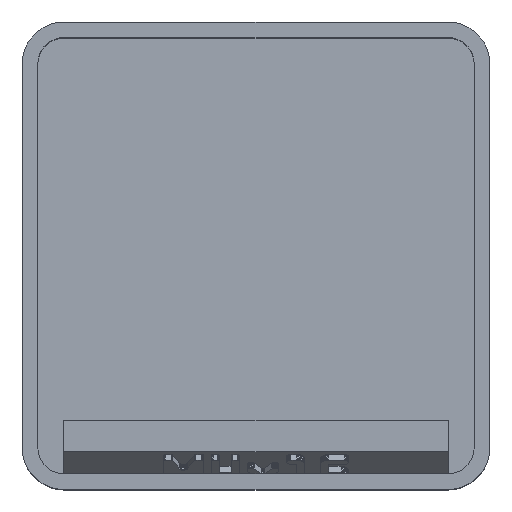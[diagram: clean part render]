
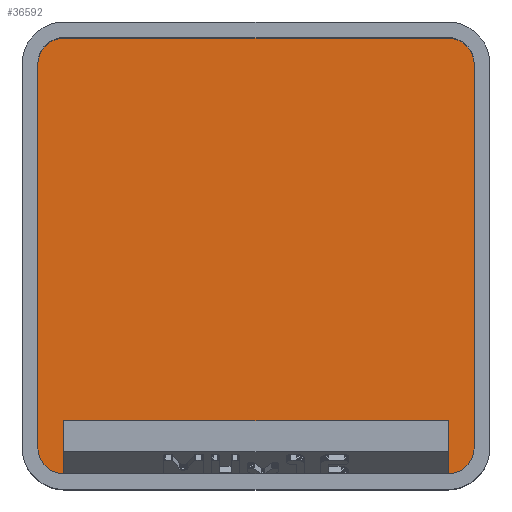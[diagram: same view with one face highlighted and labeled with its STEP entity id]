
A CAD part, top view. The second image highlights one B-rep face of the part: STEP entity #36592.
In plain terms, the highlighted planar face has unit normal (0, 0, 1).
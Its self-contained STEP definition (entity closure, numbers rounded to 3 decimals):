
#912 = PLANE('',#913);
#913 = AXIS2_PLACEMENT_3D('',#914,#915,#916);
#914 = CARTESIAN_POINT('',(-19.6,0.,30.));
#915 = DIRECTION('',(-1.,0.,0.));
#916 = DIRECTION('',(-0.,-1.,-0.));
#940 = CYLINDRICAL_SURFACE('',#941,2.35);
#941 = AXIS2_PLACEMENT_3D('',#942,#943,#944);
#942 = CARTESIAN_POINT('',(-17.25,17.25,5.95));
#943 = DIRECTION('',(-0.,-0.,1.));
#944 = DIRECTION('',(-1.,0.,0.));
#967 = PLANE('',#968);
#968 = AXIS2_PLACEMENT_3D('',#969,#970,#971);
#969 = CARTESIAN_POINT('',(0.,19.6,30.));
#970 = DIRECTION('',(0.,1.,0.));
#971 = DIRECTION('',(-1.,0.,0.));
#995 = CYLINDRICAL_SURFACE('',#996,2.35);
#996 = AXIS2_PLACEMENT_3D('',#997,#998,#999);
#997 = CARTESIAN_POINT('',(17.25,17.25,5.95));
#998 = DIRECTION('',(-0.,-0.,1.));
#999 = DIRECTION('',(-1.,0.,0.));
#1022 = PLANE('',#1023);
#1023 = AXIS2_PLACEMENT_3D('',#1024,#1025,#1026);
#1024 = CARTESIAN_POINT('',(19.6,0.,30.));
#1025 = DIRECTION('',(1.,0.,0.));
#1026 = DIRECTION('',(-0.,1.,0.));
#1050 = CYLINDRICAL_SURFACE('',#1051,2.35);
#1051 = AXIS2_PLACEMENT_3D('',#1052,#1053,#1054);
#1052 = CARTESIAN_POINT('',(17.25,-17.25,5.95));
#1053 = DIRECTION('',(-0.,-0.,1.));
#1054 = DIRECTION('',(-1.,0.,0.));
#1103 = CYLINDRICAL_SURFACE('',#1104,2.35);
#1104 = AXIS2_PLACEMENT_3D('',#1105,#1106,#1107);
#1105 = CARTESIAN_POINT('',(-17.25,-17.25,5.95));
#1106 = DIRECTION('',(-0.,-0.,1.));
#1107 = DIRECTION('',(-1.,0.,0.));
#13653 = EDGE_CURVE('',#13654,#13656,#13658,.T.);
#13654 = VERTEX_POINT('',#13655);
#13655 = CARTESIAN_POINT('',(-19.6,-17.25,5.95));
#13656 = VERTEX_POINT('',#13657);
#13657 = CARTESIAN_POINT('',(-19.6,17.25,5.95));
#13658 = SURFACE_CURVE('',#13659,(#13663,#13670),.PCURVE_S1.);
#13659 = LINE('',#13660,#13661);
#13660 = CARTESIAN_POINT('',(-19.6,0.,5.95));
#13661 = VECTOR('',#13662,1.);
#13662 = DIRECTION('',(0.,1.,0.));
#13663 = PCURVE('',#912,#13664);
#13664 = DEFINITIONAL_REPRESENTATION('',(#13665),#13669);
#13665 = LINE('',#13666,#13667);
#13666 = CARTESIAN_POINT('',(0.,-24.05));
#13667 = VECTOR('',#13668,1.);
#13668 = DIRECTION('',(-1.,0.));
#13669 = ( GEOMETRIC_REPRESENTATION_CONTEXT(2) 
PARAMETRIC_REPRESENTATION_CONTEXT() REPRESENTATION_CONTEXT('2D SPACE',''
  ) );
#13670 = PCURVE('',#13671,#13676);
#13671 = PLANE('',#13672);
#13672 = AXIS2_PLACEMENT_3D('',#13673,#13674,#13675);
#13673 = CARTESIAN_POINT('',(-17.25,-17.25,5.95));
#13674 = DIRECTION('',(0.,0.,-1.));
#13675 = DIRECTION('',(-1.,0.,0.));
#13676 = DEFINITIONAL_REPRESENTATION('',(#13677),#13681);
#13677 = LINE('',#13678,#13679);
#13678 = CARTESIAN_POINT('',(2.35,17.25));
#13679 = VECTOR('',#13680,1.);
#13680 = DIRECTION('',(0.,1.));
#13681 = ( GEOMETRIC_REPRESENTATION_CONTEXT(2) 
PARAMETRIC_REPRESENTATION_CONTEXT() REPRESENTATION_CONTEXT('2D SPACE',''
  ) );
#13728 = EDGE_CURVE('',#13729,#13654,#13731,.T.);
#13729 = VERTEX_POINT('',#13730);
#13730 = CARTESIAN_POINT('',(-17.25,-19.6,5.95));
#13731 = SURFACE_CURVE('',#13732,(#13737,#13744),.PCURVE_S1.);
#13732 = CIRCLE('',#13733,2.35);
#13733 = AXIS2_PLACEMENT_3D('',#13734,#13735,#13736);
#13734 = CARTESIAN_POINT('',(-17.25,-17.25,5.95));
#13735 = DIRECTION('',(0.,0.,-1.));
#13736 = DIRECTION('',(-1.,0.,0.));
#13737 = PCURVE('',#1103,#13738);
#13738 = DEFINITIONAL_REPRESENTATION('',(#13739),#13743);
#13739 = LINE('',#13740,#13741);
#13740 = CARTESIAN_POINT('',(6.283,0.));
#13741 = VECTOR('',#13742,1.);
#13742 = DIRECTION('',(-1.,0.));
#13743 = ( GEOMETRIC_REPRESENTATION_CONTEXT(2) 
PARAMETRIC_REPRESENTATION_CONTEXT() REPRESENTATION_CONTEXT('2D SPACE',''
  ) );
#13744 = PCURVE('',#13671,#13745);
#13745 = DEFINITIONAL_REPRESENTATION('',(#13746),#13750);
#13746 = CIRCLE('',#13747,2.35);
#13747 = AXIS2_PLACEMENT_2D('',#13748,#13749);
#13748 = CARTESIAN_POINT('',(0.,0.));
#13749 = DIRECTION('',(1.,0.));
#13750 = ( GEOMETRIC_REPRESENTATION_CONTEXT(2) 
PARAMETRIC_REPRESENTATION_CONTEXT() REPRESENTATION_CONTEXT('2D SPACE',''
  ) );
#13768 = PLANE('',#13769);
#13769 = AXIS2_PLACEMENT_3D('',#13770,#13771,#13772);
#13770 = CARTESIAN_POINT('',(0.,-19.6,30.));
#13771 = DIRECTION('',(0.,-1.,0.));
#13772 = DIRECTION('',(1.,0.,0.));
#13855 = EDGE_CURVE('',#13856,#13858,#13860,.T.);
#13856 = VERTEX_POINT('',#13857);
#13857 = CARTESIAN_POINT('',(19.6,-17.25,5.95));
#13858 = VERTEX_POINT('',#13859);
#13859 = CARTESIAN_POINT('',(17.25,-19.6,5.95));
#13860 = SURFACE_CURVE('',#13861,(#13866,#13873),.PCURVE_S1.);
#13861 = CIRCLE('',#13862,2.35);
#13862 = AXIS2_PLACEMENT_3D('',#13863,#13864,#13865);
#13863 = CARTESIAN_POINT('',(17.25,-17.25,5.95));
#13864 = DIRECTION('',(0.,0.,-1.));
#13865 = DIRECTION('',(-1.,0.,0.));
#13866 = PCURVE('',#1050,#13867);
#13867 = DEFINITIONAL_REPRESENTATION('',(#13868),#13872);
#13868 = LINE('',#13869,#13870);
#13869 = CARTESIAN_POINT('',(6.283,0.));
#13870 = VECTOR('',#13871,1.);
#13871 = DIRECTION('',(-1.,0.));
#13872 = ( GEOMETRIC_REPRESENTATION_CONTEXT(2) 
PARAMETRIC_REPRESENTATION_CONTEXT() REPRESENTATION_CONTEXT('2D SPACE',''
  ) );
#13873 = PCURVE('',#13671,#13874);
#13874 = DEFINITIONAL_REPRESENTATION('',(#13875),#13879);
#13875 = CIRCLE('',#13876,2.35);
#13876 = AXIS2_PLACEMENT_2D('',#13877,#13878);
#13877 = CARTESIAN_POINT('',(-34.5,0.));
#13878 = DIRECTION('',(1.,0.));
#13879 = ( GEOMETRIC_REPRESENTATION_CONTEXT(2) 
PARAMETRIC_REPRESENTATION_CONTEXT() REPRESENTATION_CONTEXT('2D SPACE',''
  ) );
#13953 = EDGE_CURVE('',#13856,#13954,#13956,.T.);
#13954 = VERTEX_POINT('',#13955);
#13955 = CARTESIAN_POINT('',(19.6,17.25,5.95));
#13956 = SURFACE_CURVE('',#13957,(#13961,#13968),.PCURVE_S1.);
#13957 = LINE('',#13958,#13959);
#13958 = CARTESIAN_POINT('',(19.6,0.,5.95));
#13959 = VECTOR('',#13960,1.);
#13960 = DIRECTION('',(0.,1.,0.));
#13961 = PCURVE('',#1022,#13962);
#13962 = DEFINITIONAL_REPRESENTATION('',(#13963),#13967);
#13963 = LINE('',#13964,#13965);
#13964 = CARTESIAN_POINT('',(0.,-24.05));
#13965 = VECTOR('',#13966,1.);
#13966 = DIRECTION('',(1.,0.));
#13967 = ( GEOMETRIC_REPRESENTATION_CONTEXT(2) 
PARAMETRIC_REPRESENTATION_CONTEXT() REPRESENTATION_CONTEXT('2D SPACE',''
  ) );
#13968 = PCURVE('',#13671,#13969);
#13969 = DEFINITIONAL_REPRESENTATION('',(#13970),#13974);
#13970 = LINE('',#13971,#13972);
#13971 = CARTESIAN_POINT('',(-36.85,17.25));
#13972 = VECTOR('',#13973,1.);
#13973 = DIRECTION('',(0.,1.));
#13974 = ( GEOMETRIC_REPRESENTATION_CONTEXT(2) 
PARAMETRIC_REPRESENTATION_CONTEXT() REPRESENTATION_CONTEXT('2D SPACE',''
  ) );
#14001 = EDGE_CURVE('',#14002,#13954,#14004,.T.);
#14002 = VERTEX_POINT('',#14003);
#14003 = CARTESIAN_POINT('',(17.25,19.6,5.95));
#14004 = SURFACE_CURVE('',#14005,(#14010,#14017),.PCURVE_S1.);
#14005 = CIRCLE('',#14006,2.35);
#14006 = AXIS2_PLACEMENT_3D('',#14007,#14008,#14009);
#14007 = CARTESIAN_POINT('',(17.25,17.25,5.95));
#14008 = DIRECTION('',(0.,0.,-1.));
#14009 = DIRECTION('',(-1.,0.,0.));
#14010 = PCURVE('',#995,#14011);
#14011 = DEFINITIONAL_REPRESENTATION('',(#14012),#14016);
#14012 = LINE('',#14013,#14014);
#14013 = CARTESIAN_POINT('',(6.283,0.));
#14014 = VECTOR('',#14015,1.);
#14015 = DIRECTION('',(-1.,0.));
#14016 = ( GEOMETRIC_REPRESENTATION_CONTEXT(2) 
PARAMETRIC_REPRESENTATION_CONTEXT() REPRESENTATION_CONTEXT('2D SPACE',''
  ) );
#14017 = PCURVE('',#13671,#14018);
#14018 = DEFINITIONAL_REPRESENTATION('',(#14019),#14023);
#14019 = CIRCLE('',#14020,2.35);
#14020 = AXIS2_PLACEMENT_2D('',#14021,#14022);
#14021 = CARTESIAN_POINT('',(-34.5,34.5));
#14022 = DIRECTION('',(1.,0.));
#14023 = ( GEOMETRIC_REPRESENTATION_CONTEXT(2) 
PARAMETRIC_REPRESENTATION_CONTEXT() REPRESENTATION_CONTEXT('2D SPACE',''
  ) );
#14051 = EDGE_CURVE('',#14052,#14002,#14054,.T.);
#14052 = VERTEX_POINT('',#14053);
#14053 = CARTESIAN_POINT('',(-17.25,19.6,5.95));
#14054 = SURFACE_CURVE('',#14055,(#14059,#14066),.PCURVE_S1.);
#14055 = LINE('',#14056,#14057);
#14056 = CARTESIAN_POINT('',(0.,19.6,5.95));
#14057 = VECTOR('',#14058,1.);
#14058 = DIRECTION('',(1.,0.,0.));
#14059 = PCURVE('',#967,#14060);
#14060 = DEFINITIONAL_REPRESENTATION('',(#14061),#14065);
#14061 = LINE('',#14062,#14063);
#14062 = CARTESIAN_POINT('',(0.,-24.05));
#14063 = VECTOR('',#14064,1.);
#14064 = DIRECTION('',(-1.,0.));
#14065 = ( GEOMETRIC_REPRESENTATION_CONTEXT(2) 
PARAMETRIC_REPRESENTATION_CONTEXT() REPRESENTATION_CONTEXT('2D SPACE',''
  ) );
#14066 = PCURVE('',#13671,#14067);
#14067 = DEFINITIONAL_REPRESENTATION('',(#14068),#14072);
#14068 = LINE('',#14069,#14070);
#14069 = CARTESIAN_POINT('',(-17.25,36.85));
#14070 = VECTOR('',#14071,1.);
#14071 = DIRECTION('',(-1.,0.));
#14072 = ( GEOMETRIC_REPRESENTATION_CONTEXT(2) 
PARAMETRIC_REPRESENTATION_CONTEXT() REPRESENTATION_CONTEXT('2D SPACE',''
  ) );
#14100 = EDGE_CURVE('',#13656,#14052,#14101,.T.);
#14101 = SURFACE_CURVE('',#14102,(#14107,#14114),.PCURVE_S1.);
#14102 = CIRCLE('',#14103,2.35);
#14103 = AXIS2_PLACEMENT_3D('',#14104,#14105,#14106);
#14104 = CARTESIAN_POINT('',(-17.25,17.25,5.95));
#14105 = DIRECTION('',(0.,0.,-1.));
#14106 = DIRECTION('',(-1.,0.,0.));
#14107 = PCURVE('',#940,#14108);
#14108 = DEFINITIONAL_REPRESENTATION('',(#14109),#14113);
#14109 = LINE('',#14110,#14111);
#14110 = CARTESIAN_POINT('',(6.283,0.));
#14111 = VECTOR('',#14112,1.);
#14112 = DIRECTION('',(-1.,0.));
#14113 = ( GEOMETRIC_REPRESENTATION_CONTEXT(2) 
PARAMETRIC_REPRESENTATION_CONTEXT() REPRESENTATION_CONTEXT('2D SPACE',''
  ) );
#14114 = PCURVE('',#13671,#14115);
#14115 = DEFINITIONAL_REPRESENTATION('',(#14116),#14120);
#14116 = CIRCLE('',#14117,2.35);
#14117 = AXIS2_PLACEMENT_2D('',#14118,#14119);
#14118 = CARTESIAN_POINT('',(0.,34.5));
#14119 = DIRECTION('',(1.,0.));
#14120 = ( GEOMETRIC_REPRESENTATION_CONTEXT(2) 
PARAMETRIC_REPRESENTATION_CONTEXT() REPRESENTATION_CONTEXT('2D SPACE',''
  ) );
#36592 = ADVANCED_FACE('',(#36593),#13671,.F.);
#36593 = FACE_BOUND('',#36594,.T.);
#36594 = EDGE_LOOP('',(#36595,#36596,#36597,#36618,#36619,#36620,#36621,
    #36622));
#36595 = ORIENTED_EDGE('',*,*,#13653,.F.);
#36596 = ORIENTED_EDGE('',*,*,#13728,.F.);
#36597 = ORIENTED_EDGE('',*,*,#36598,.T.);
#36598 = EDGE_CURVE('',#13729,#13858,#36599,.T.);
#36599 = SURFACE_CURVE('',#36600,(#36604,#36611),.PCURVE_S1.);
#36600 = LINE('',#36601,#36602);
#36601 = CARTESIAN_POINT('',(0.,-19.6,5.95));
#36602 = VECTOR('',#36603,1.);
#36603 = DIRECTION('',(1.,0.,0.));
#36604 = PCURVE('',#13671,#36605);
#36605 = DEFINITIONAL_REPRESENTATION('',(#36606),#36610);
#36606 = LINE('',#36607,#36608);
#36607 = CARTESIAN_POINT('',(-17.25,-2.35));
#36608 = VECTOR('',#36609,1.);
#36609 = DIRECTION('',(-1.,0.));
#36610 = ( GEOMETRIC_REPRESENTATION_CONTEXT(2) 
PARAMETRIC_REPRESENTATION_CONTEXT() REPRESENTATION_CONTEXT('2D SPACE',''
  ) );
#36611 = PCURVE('',#13768,#36612);
#36612 = DEFINITIONAL_REPRESENTATION('',(#36613),#36617);
#36613 = LINE('',#36614,#36615);
#36614 = CARTESIAN_POINT('',(0.,-24.05));
#36615 = VECTOR('',#36616,1.);
#36616 = DIRECTION('',(1.,0.));
#36617 = ( GEOMETRIC_REPRESENTATION_CONTEXT(2) 
PARAMETRIC_REPRESENTATION_CONTEXT() REPRESENTATION_CONTEXT('2D SPACE',''
  ) );
#36618 = ORIENTED_EDGE('',*,*,#13855,.F.);
#36619 = ORIENTED_EDGE('',*,*,#13953,.T.);
#36620 = ORIENTED_EDGE('',*,*,#14001,.F.);
#36621 = ORIENTED_EDGE('',*,*,#14051,.F.);
#36622 = ORIENTED_EDGE('',*,*,#14100,.F.);
